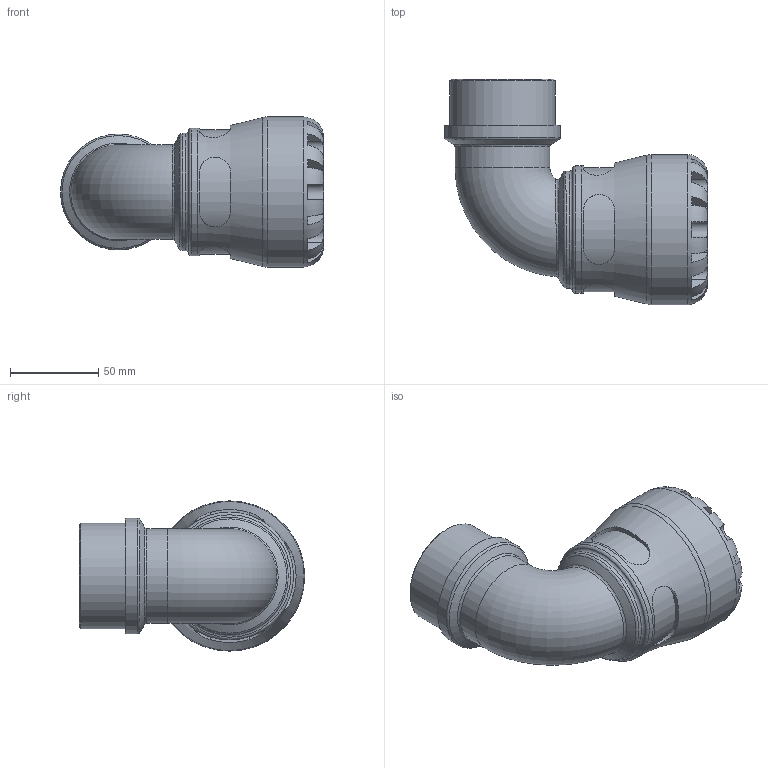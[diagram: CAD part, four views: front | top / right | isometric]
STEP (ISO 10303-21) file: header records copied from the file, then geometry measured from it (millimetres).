
FILE_DESCRIPTION(/* description */ ('PLASSON 90° ELBOW WITH MALE INTEGRAL BRASS 50X2" SERIES 1'),/* implementation_level */ '2;1');
FILE_NAME(/* name */ 'C:\Dropbox\KIMPROJECTS-Inventor\99-16-3568-Processing\S1\1077\107700050020_197700050020.ipt.stp',/* time_stamp */ '2018-05-13T11:03:44+03:00',/* author */ ('KIM'),/* organization */ (''),/* preprocessor_version */ 'ST-DEVELOPER v15.6',/* originating_system */ 'Autodesk Inventor 2015',/* authorisation */ '');
FILE_SCHEMA (('AUTOMOTIVE_DESIGN { 1 0 10303 214 3 1 1 }'));
Length unit declared in the file: millimetre
Products named in the file (1): 107700050020_197700050020
Bounding box: 148.79 x 127.5 x 85 mm (x, y, z)
Volume: 345312.6 mm3; surface area: 74730.1 mm2
Topology: 1 solids, 1 shells, 112 faces, 275 edges, 170 vertices
Faces by surface type: plane 60, cylinder 37, torus 9, cone 3, bspline 3
Full cylindrical faces by diameter (mm): 41.73 x2, 50 x1, 53.653 x1, 59.614 x1, 65.575 x1, 66.3 x1, 72.25 x1, 85 x1
Entity records: 4391 total; most frequent: CARTESIAN_POINT 1801, DIRECTION 495, ORIENTED_EDGE 492, EDGE_CURVE 246, AXIS2_PLACEMENT_3D 207, VERTEX_POINT 163, EDGE_LOOP 141, STYLED_ITEM 113
